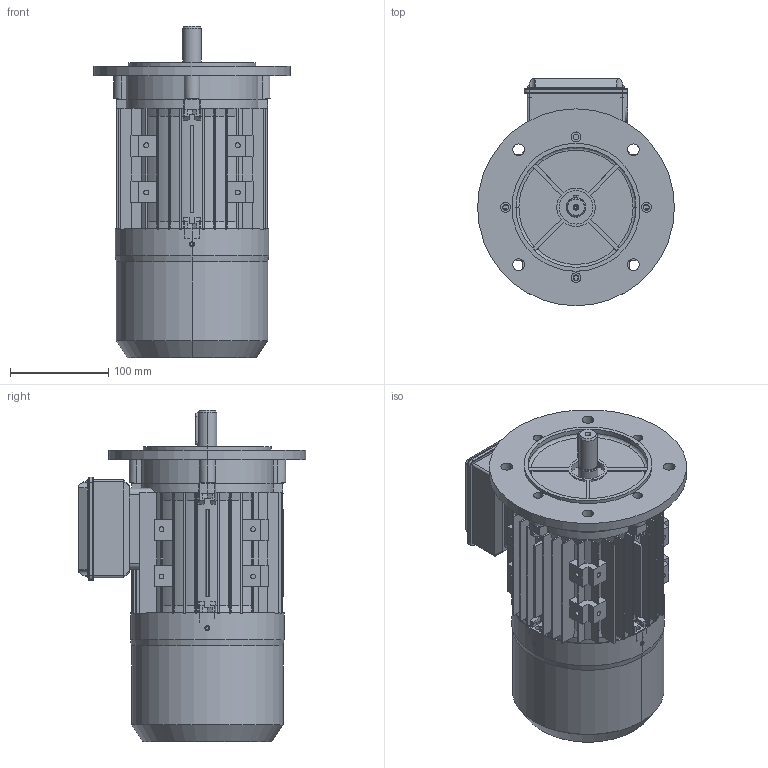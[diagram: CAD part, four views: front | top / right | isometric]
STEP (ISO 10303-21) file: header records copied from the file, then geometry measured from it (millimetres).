
FILE_DESCRIPTION (( 'STEP AP214' ), '1' );
FILE_NAME ('BMS80_B5.STEP', '2013-12-10T15:29:41', ( '' ), ( '' ), 'SwSTEP 2.0', 'SolidWorks 2012', '' );
FILE_SCHEMA (( 'AUTOMOTIVE_DESIGN' ));
Length unit declared in the file: millimetre
Products named in the file (8): L黤terfl黦el_MS80; BRE-Haube_BMS80; B-Lagerschild_MS80; Klemmenkastendeckel_MS80; Klemmenkastenunterteil_MS80; B5-Flansch_MS80; Gehäuse_MS80; BMS80_B5
Assembly tree (7 placements, depth 2):
  BMS80_B5
    Gehäuse_MS80
    B5-Flansch_MS80
    Klemmenkastenunterteil_MS80
    Klemmenkastendeckel_MS80
    B-Lagerschild_MS80
    BRE-Haube_BMS80
    L黤terfl黦el_MS80
Bounding box: 200 x 231.15 x 337 mm (x, y, z)
Volume: 1101539.4 mm3; surface area: 660937.3 mm2
Topology: 7 solids, 7 shells, 2247 faces, 6127 edges, 4005 vertices
Faces by surface type: plane 1492, cylinder 517, bspline 135, cone 103
Entity records: 78465 total; most frequent: CARTESIAN_POINT 21273, ORIENTED_EDGE 12230, DIRECTION 11040, EDGE_CURVE 6115, LINE 4372, VECTOR 4372, VERTEX_POINT 4005, AXIS2_PLACEMENT_3D 3334
